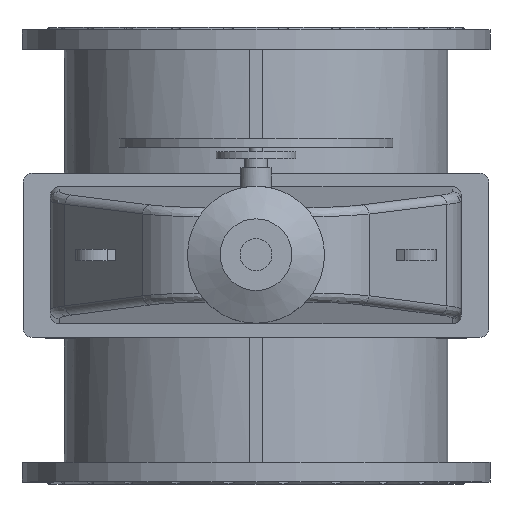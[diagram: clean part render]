
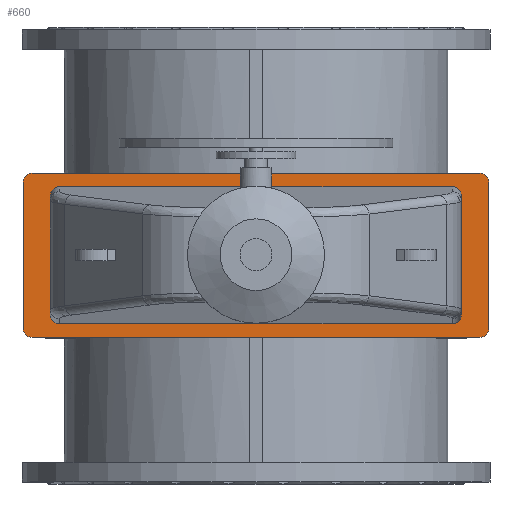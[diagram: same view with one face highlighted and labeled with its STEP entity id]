
A CAD part, top view. The second image highlights one B-rep face of the part: STEP entity #660.
In plain terms, the highlighted planar face has unit normal (0, 0, 1).
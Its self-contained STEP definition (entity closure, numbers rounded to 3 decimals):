
#660=ADVANCED_FACE('',(#4659,#4661),#4663,.T.);
#4659=FACE_BOUND('',#4660,.T.);
#4660=EDGE_LOOP('',(#9769,#9770,#9771,#9772,#9773,#9774,#9775,#9776));
#4661=FACE_BOUND('',#4662,.T.);
#4662=EDGE_LOOP('',(#9777,#9778,#9779,#9780,#9781,#9782,#9783,#9784));
#4663=PLANE('',#4664);
#4664=AXIS2_PLACEMENT_3D('',#4665,#4666,#4667);
#4665=CARTESIAN_POINT('',(0.,0.,886.));
#4666=DIRECTION('',(0.,-0.,1.));
#4667=DIRECTION('',(0.,1.,0.));
#9769=ORIENTED_EDGE('',*,*,#11722,.F.);
#9770=ORIENTED_EDGE('',*,*,#11723,.T.);
#9771=ORIENTED_EDGE('',*,*,#11724,.F.);
#9772=ORIENTED_EDGE('',*,*,#11725,.T.);
#9773=ORIENTED_EDGE('',*,*,#11726,.F.);
#9774=ORIENTED_EDGE('',*,*,#11727,.T.);
#9775=ORIENTED_EDGE('',*,*,#11728,.F.);
#9776=ORIENTED_EDGE('',*,*,#11729,.T.);
#9777=ORIENTED_EDGE('',*,*,#11712,.F.);
#9778=ORIENTED_EDGE('',*,*,#11683,.F.);
#9779=ORIENTED_EDGE('',*,*,#11721,.F.);
#9780=ORIENTED_EDGE('',*,*,#11730,.F.);
#9781=ORIENTED_EDGE('',*,*,#11731,.F.);
#9782=ORIENTED_EDGE('',*,*,#11696,.F.);
#9783=ORIENTED_EDGE('',*,*,#11732,.F.);
#9784=ORIENTED_EDGE('',*,*,#11733,.F.);
#11683=EDGE_CURVE('',#12769,#12755,#12771,.T.);
#11696=EDGE_CURVE('',#12790,#12793,#12794,.T.);
#11712=EDGE_CURVE('',#12755,#12821,#12822,.F.);
#11721=EDGE_CURVE('',#12832,#12769,#12834,.T.);
#11722=EDGE_CURVE('',#12835,#12836,#12837,.F.);
#11723=EDGE_CURVE('',#12835,#12838,#12839,.T.);
#11724=EDGE_CURVE('',#12840,#12838,#12841,.F.);
#11725=EDGE_CURVE('',#12840,#12842,#12843,.T.);
#11726=EDGE_CURVE('',#12844,#12842,#12845,.F.);
#11727=EDGE_CURVE('',#12844,#12846,#12847,.T.);
#11728=EDGE_CURVE('',#12848,#12846,#12849,.F.);
#11729=EDGE_CURVE('',#12848,#12836,#12850,.T.);
#11730=EDGE_CURVE('',#12851,#12832,#12852,.T.);
#11731=EDGE_CURVE('',#12793,#12851,#12853,.F.);
#11732=EDGE_CURVE('',#12854,#12790,#12855,.T.);
#11733=EDGE_CURVE('',#12821,#12854,#12856,.T.);
#12755=VERTEX_POINT('',#14828);
#12769=VERTEX_POINT('',#14860);
#12771=LINE('',#14864,#14865);
#12790=VERTEX_POINT('',#14911);
#12793=VERTEX_POINT('',#14916);
#12794=LINE('',#14917,#14918);
#12821=VERTEX_POINT('',#14981);
#12822=(BOUNDED_CURVE()B_SPLINE_CURVE(3,
(#14982,#14983,#14984,#14985),
.UNSPECIFIED.,.F.,.F.)B_SPLINE_CURVE_WITH_KNOTS((4,4),
(0.,1.),
.UNSPECIFIED.)CURVE()GEOMETRIC_REPRESENTATION_ITEM()RATIONAL_B_SPLINE_CURVE((1.,
0.805,0.805,1.))REPRESENTATION_ITEM(''));
#12832=VERTEX_POINT('',#15015);
#12834=(BOUNDED_CURVE()B_SPLINE_CURVE(3,
(#15019,#15020,#15021,#15022),
.UNSPECIFIED.,.F.,.F.)B_SPLINE_CURVE_WITH_KNOTS((4,4),
(0.,1.),
.UNSPECIFIED.)CURVE()GEOMETRIC_REPRESENTATION_ITEM()RATIONAL_B_SPLINE_CURVE((1.,
0.805,0.805,1.))REPRESENTATION_ITEM(''));
#12835=VERTEX_POINT('',#15023);
#12836=VERTEX_POINT('',#15024);
#12837=CIRCLE('',#15025,20.);
#12838=VERTEX_POINT('',#15029);
#12839=LINE('',#15030,#15031);
#12840=VERTEX_POINT('',#15033);
#12841=CIRCLE('',#15034,20.);
#12842=VERTEX_POINT('',#15038);
#12843=LINE('',#15039,#15040);
#12844=VERTEX_POINT('',#15042);
#12845=CIRCLE('',#15043,20.);
#12846=VERTEX_POINT('',#15047);
#12847=LINE('',#15048,#15049);
#12848=VERTEX_POINT('',#15051);
#12849=CIRCLE('',#15052,20.);
#12850=LINE('',#15056,#15057);
#12851=VERTEX_POINT('',#15059);
#12852=LINE('',#15060,#15061);
#12853=(BOUNDED_CURVE()B_SPLINE_CURVE(3,
(#15063,#15064,#15065,#15066),
.UNSPECIFIED.,.F.,.F.)B_SPLINE_CURVE_WITH_KNOTS((4,4),
(0.,1.),
.UNSPECIFIED.)CURVE()GEOMETRIC_REPRESENTATION_ITEM()RATIONAL_B_SPLINE_CURVE((1.,
0.805,0.805,1.))REPRESENTATION_ITEM(''));
#12854=VERTEX_POINT('',#15067);
#12855=(BOUNDED_CURVE()B_SPLINE_CURVE(3,
(#15068,#15069,#15070,#15071),
.UNSPECIFIED.,.F.,.F.)B_SPLINE_CURVE_WITH_KNOTS((4,4),
(0.,1.),
.UNSPECIFIED.)CURVE()GEOMETRIC_REPRESENTATION_ITEM()RATIONAL_B_SPLINE_CURVE((1.,
0.805,0.805,1.))REPRESENTATION_ITEM(''));
#12856=LINE('',#15072,#15073);
#14828=CARTESIAN_POINT('',(429.693,-150.,886.));
#14860=CARTESIAN_POINT('',(-430.307,-150.,886.));
#14864=CARTESIAN_POINT('',(-430.307,-150.,886.));
#14865=VECTOR('',#14866,1.);
#14866=DIRECTION('',(1.,0.,0.));
#14911=CARTESIAN_POINT('',(429.693,150.,886.));
#14916=CARTESIAN_POINT('',(-430.307,150.,886.));
#14917=CARTESIAN_POINT('',(429.693,150.,886.));
#14918=VECTOR('',#14919,1.);
#14919=DIRECTION('',(-1.,0.,0.));
#14981=CARTESIAN_POINT('',(449.693,-129.924,886.));
#14982=CARTESIAN_POINT('',(449.693,-129.924,886.));
#14983=CARTESIAN_POINT('',(449.693,-141.684,886.));
#14984=CARTESIAN_POINT('',(441.409,-150.,886.));
#14985=CARTESIAN_POINT('',(429.693,-150.,886.));
#15015=CARTESIAN_POINT('',(-450.307,-129.924,886.));
#15019=CARTESIAN_POINT('',(-450.307,-129.924,886.));
#15020=CARTESIAN_POINT('',(-450.307,-141.684,886.));
#15021=CARTESIAN_POINT('',(-442.022,-150.,886.));
#15022=CARTESIAN_POINT('',(-430.307,-150.,886.));
#15023=CARTESIAN_POINT('',(-490.,-180.,886.));
#15024=CARTESIAN_POINT('',(-510.,-160.,886.));
#15025=AXIS2_PLACEMENT_3D('',#15026,#15027,#15028);
#15026=CARTESIAN_POINT('',(-490.,-160.,886.));
#15027=DIRECTION('',(0.,-0.,1.));
#15028=DIRECTION('',(-1.,0.,0.));
#15029=CARTESIAN_POINT('',(490.,-180.,886.));
#15030=CARTESIAN_POINT('',(-490.,-180.,886.));
#15031=VECTOR('',#15032,1.);
#15032=DIRECTION('',(1.,0.,0.));
#15033=CARTESIAN_POINT('',(510.,-160.,886.));
#15034=AXIS2_PLACEMENT_3D('',#15035,#15036,#15037);
#15035=CARTESIAN_POINT('',(490.,-160.,886.));
#15036=DIRECTION('',(0.,-0.,1.));
#15037=DIRECTION('',(0.,-1.,0.));
#15038=CARTESIAN_POINT('',(510.,160.,886.));
#15039=CARTESIAN_POINT('',(510.,-160.,886.));
#15040=VECTOR('',#15041,1.);
#15041=DIRECTION('',(0.,1.,0.));
#15042=CARTESIAN_POINT('',(490.,180.,886.));
#15043=AXIS2_PLACEMENT_3D('',#15044,#15045,#15046);
#15044=CARTESIAN_POINT('',(490.,160.,886.));
#15045=DIRECTION('',(0.,-0.,1.));
#15046=DIRECTION('',(1.,0.,0.));
#15047=CARTESIAN_POINT('',(-490.,180.,886.));
#15048=CARTESIAN_POINT('',(490.,180.,886.));
#15049=VECTOR('',#15050,1.);
#15050=DIRECTION('',(-1.,0.,0.));
#15051=CARTESIAN_POINT('',(-510.,160.,886.));
#15052=AXIS2_PLACEMENT_3D('',#15053,#15054,#15055);
#15053=CARTESIAN_POINT('',(-490.,160.,886.));
#15054=DIRECTION('',(0.,-0.,1.));
#15055=DIRECTION('',(0.,1.,0.));
#15056=CARTESIAN_POINT('',(-510.,160.,886.));
#15057=VECTOR('',#15058,1.);
#15058=DIRECTION('',(0.,-1.,0.));
#15059=CARTESIAN_POINT('',(-450.307,129.924,886.));
#15060=CARTESIAN_POINT('',(-450.307,129.924,886.));
#15061=VECTOR('',#15062,1.);
#15062=DIRECTION('',(0.,-1.,0.));
#15063=CARTESIAN_POINT('',(-450.307,129.924,886.));
#15064=CARTESIAN_POINT('',(-450.307,141.684,886.));
#15065=CARTESIAN_POINT('',(-442.022,150.,886.));
#15066=CARTESIAN_POINT('',(-430.307,150.,886.));
#15067=CARTESIAN_POINT('',(449.693,129.924,886.));
#15068=CARTESIAN_POINT('',(449.693,129.924,886.));
#15069=CARTESIAN_POINT('',(449.693,141.684,886.));
#15070=CARTESIAN_POINT('',(441.409,150.,886.));
#15071=CARTESIAN_POINT('',(429.693,150.,886.));
#15072=CARTESIAN_POINT('',(449.693,-129.924,886.));
#15073=VECTOR('',#15074,1.);
#15074=DIRECTION('',(0.,1.,0.));
